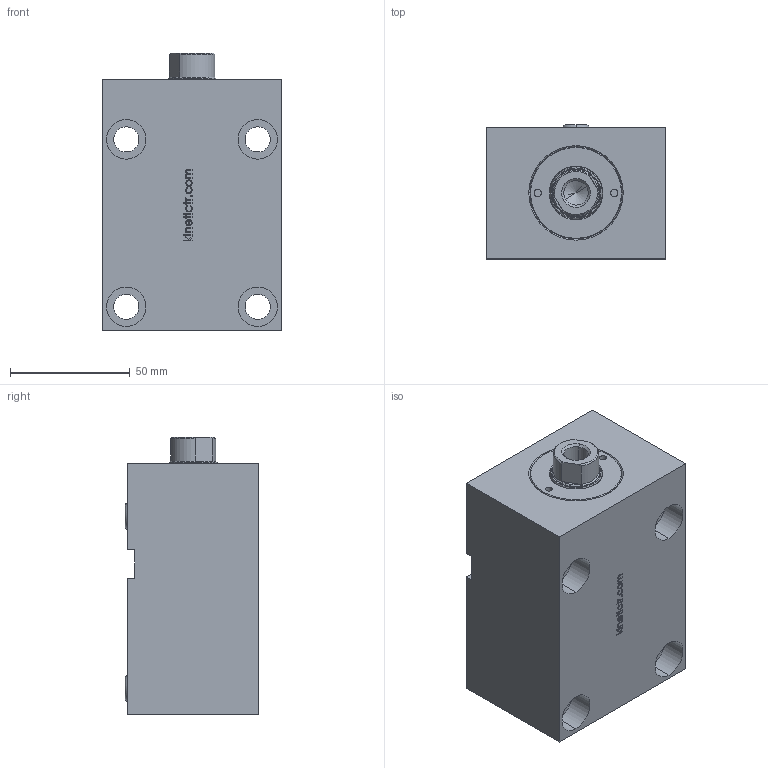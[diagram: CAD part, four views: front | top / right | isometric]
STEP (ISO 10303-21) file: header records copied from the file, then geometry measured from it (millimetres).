
FILE_DESCRIPTION (( 'STEP AP214' ), '1' );
FILE_NAME ('KBZ_11_32_20_55.STEP', '2019-09-15T15:06:23', ( '' ), ( '' ), 'SwSTEP 2.0', 'SolidWorks 2018', '' );
FILE_SCHEMA (( 'AUTOMOTIVE_DESIGN' ));
Length unit declared in the file: millimetre
Products named in the file (6): KBZ_11_32_20_55; KO-6X2_5; KBZ_11_32_ON_kapak_W; KBZ_11_20_MIL_W; K06-20X25X4_3X6; kbz_11_32_20_govde_W
Assembly tree (6 placements, depth 2):
  KBZ_11_32_20_55
    kbz_11_32_20_govde_W
    KBZ_11_20_MIL_W
    KBZ_11_32_ON_kapak_W
    K06-20X25X4_3X6
    KO-6X2_5  x2
Bounding box: 75 x 56 x 116 mm (x, y, z)
Volume: 399454.8 mm3; surface area: 58415.8 mm2
Topology: 6 solids, 6 shells, 325 faces, 785 edges, 504 vertices
Faces by surface type: plane 137, bspline 77, cylinder 62, cone 49
Entity records: 12988 total; most frequent: CARTESIAN_POINT 5553, ORIENTED_EDGE 1550, DIRECTION 1308, EDGE_CURVE 775, VERTEX_POINT 500, VECTOR 438, LINE 438, AXIS2_PLACEMENT_3D 435
